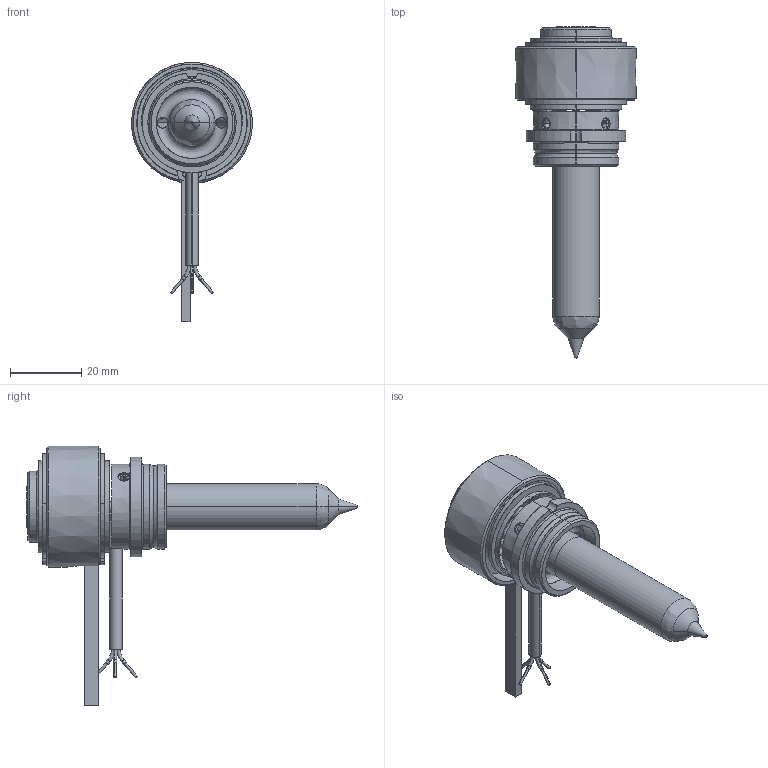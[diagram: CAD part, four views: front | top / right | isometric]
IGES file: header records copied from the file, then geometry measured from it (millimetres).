
Start section: SolidWorks IGES file using analytic representation for surfaces
Global section: file name: C:\Documents and Settings\ws-20\Desktop\TEM\UGGS2530-M-0 [Øf-0.68].IGS; native system: SolidWorks 2012; preprocessor: SolidWorks 2012; author: ws-20; date: 120516.093050; units: millimetre
Bounding box: 34 x 93.3 x 72.9 mm (x, y, z)
Surface area: 15499 mm2 (no closed solid volume)
Topology: 0 solids, 0 shells, 206 faces, 2895 edges, 2889 vertices
Faces by surface type: revolution 121, bspline 85
